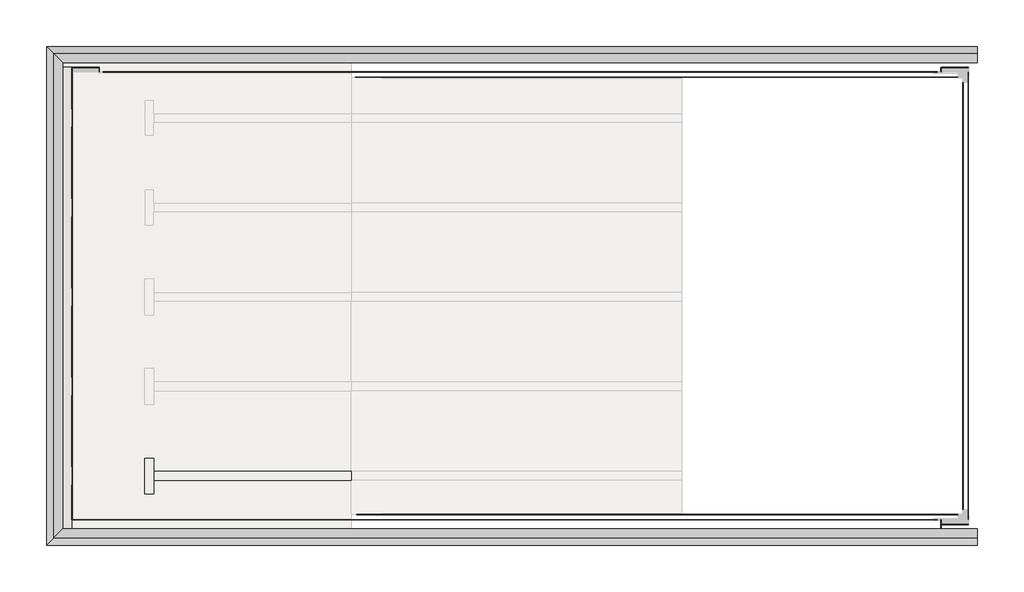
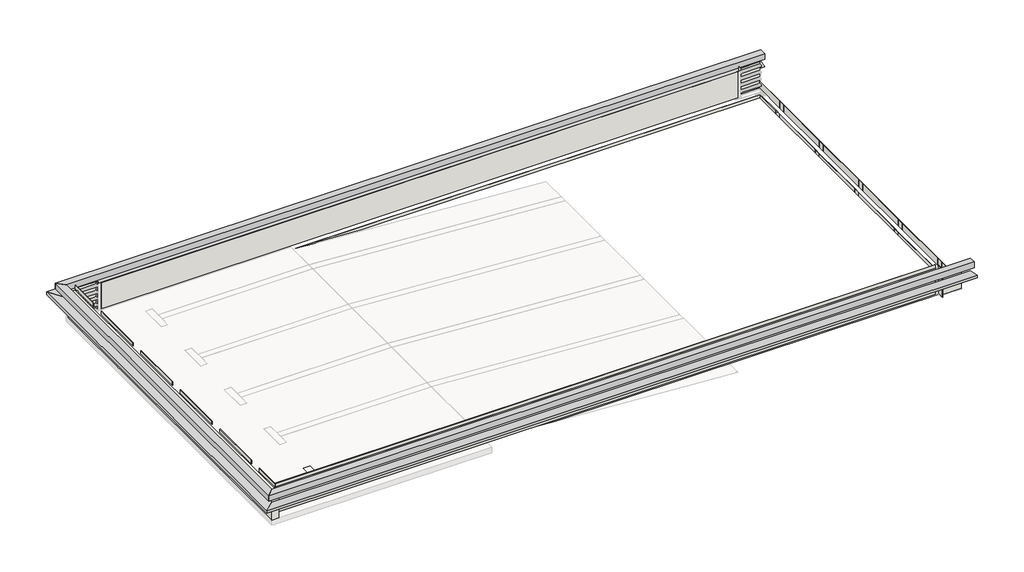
# One storey, part 1 of 2: 51 walls, 3 proxies, 2 slabs.
"""IFC4 building model written with IfcOpenShell, lengths in millimetres."""

from ifc_helpers import new_model, si_unit, frame, origin, place, context, project, spatial, polyline, outline, extrude, faceted_brep, element, save

model = new_model("IFC4")

# Units and contexts
model_context = context("Model", 3, world=origin())
ifc_project = project(units=[si_unit("LENGTHUNIT", "METRE", prefix="MILLI")], contexts=[model_context])

# Site, building, storey
site = spatial("IfcSite", under=ifc_project)
building = spatial("IfcBuilding", under=site)
storey = spatial("IfcBuildingStorey", under=building, Name="3_NFondo1 -1.2", Elevation=-1200.4)

# Proxies
placement = place(None, origin())
element("IfcBuildingElementProxy", 1, Name="Reveals", at=placement, inside=storey, context=model_context, shape_type="Brep", body=[
    faceted_brep([(6916.9610246, -25177.9286078, -15.4), (6916.9610246, -25177.9286078, -230.4), (7169.1610246, -25430.1286078, -230.4), (7169.1610246, -25430.1286078, -15.4), (32688.734436, -25177.9286078, -15.4), (32688.734436, -25430.1286078, -15.4), (32688.734436, -25430.1286078, -230.4), (32688.734436, -25177.9286078, -230.4)], [[[0, 1, 2, 3]], [[4, 5, 6, 7]], [[1, 0, 4, 7]], [[2, 1, 7, 6]], [[3, 2, 6, 5]], [[0, 3, 5, 4]]]),
    faceted_brep([(6714.1610246, -24975.1286078, -510.4), (7169.1610246, -25430.1286078, -510.4), (6714.1610246, -24975.1286078, -399.4243902), (32688.734436, -24975.1286078, -510.4), (32688.734436, -24975.1286078, -399.4243902), (32688.734436, -25430.1286078, -510.4)], [[[0, 1, 2]], [[3, 4, 5]], [[1, 0, 3, 5]], [[2, 1, 5, 4]], [[0, 2, 4, 3]]]),
])
element("IfcBuildingElementProxy", 2, Name="Reveals", at=placement, inside=storey, context=model_context, shape_type="Brep", body=[
    faceted_brep([(6916.9610246, -38700.9332692, -15.4), (7169.1610246, -38448.7332692, -15.4), (7169.1610246, -38448.7332692, -230.4), (6916.9610246, -38700.9332692, -230.4), (32688.734436, -38700.9332692, -15.4), (32688.734436, -38700.9332692, -230.4), (32688.734436, -38448.7332692, -230.4), (32688.734436, -38448.7332692, -15.4)], [[[0, 1, 2, 3]], [[4, 5, 6, 7]], [[0, 3, 5, 4]], [[3, 2, 6, 5]], [[2, 1, 7, 6]], [[1, 0, 4, 7]]]),
    faceted_brep([(6714.1610246, -38903.7332692, -510.4), (6714.1610246, -38903.7332692, -399.4243902), (7169.1610246, -38448.7332692, -510.4), (32688.734436, -38903.7332692, -510.4), (32688.734436, -38448.7332692, -510.4), (32688.734436, -38903.7332692, -399.4243902)], [[[0, 1, 2]], [[3, 4, 5]], [[0, 2, 4, 3]], [[2, 1, 5, 4]], [[1, 0, 3, 5]]]),
])
element("IfcBuildingElementProxy", 3, Name="Reveals", at=placement, inside=storey, context=model_context, shape_type="Brep", body=[
    faceted_brep([(6916.9610246, -25177.9286078, -15.4), (7169.1610246, -25430.1286078, -15.4), (7169.1610246, -25430.1286078, -230.4), (6916.9610246, -25177.9286078, -230.4), (6916.9610246, -38700.9332692, -15.4), (6916.9610246, -38700.9332692, -230.4), (7169.1610246, -38448.7332692, -230.4), (7169.1610246, -38448.7332692, -15.4)], [[[0, 1, 2, 3]], [[4, 5, 6, 7]], [[0, 3, 5, 4]], [[3, 2, 6, 5]], [[2, 1, 7, 6]], [[1, 0, 4, 7]]]),
    faceted_brep([(6714.1610246, -24975.1286078, -510.4), (6714.1610246, -24975.1286078, -399.4243902), (7169.1610246, -25430.1286078, -510.4), (6714.1610246, -38903.7332692, -510.4), (7169.1610246, -38448.7332692, -510.4), (6714.1610246, -38903.7332692, -399.4243902)], [[[0, 1, 2]], [[3, 4, 5]], [[0, 2, 4, 3]], [[2, 1, 5, 4]], [[1, 0, 3, 5]]]),
])

# Slabs
element("IfcSlab", 4, ObjectType="Pieza 122 G1_Patrón Recto_Aqua_Marino_Liso", at=placement, inside=storey, context=model_context, shape_type="SweptSolid", body=[
    extrude(outline(polyline([(9709.4610246, -36469.4598578), (9709.4610246, -37469.4598578), (9459.4610246, -37469.4598578), (9459.4610246, -36469.4598578), (9709.4610246, -36469.4598578)])), frame((0.0, 0.0, -1209.4), z_axis=(0.0, 0.0, 1.0), x_axis=(1.0, 0.0, 0.0)), (0.0, 0.0, 1.0), 9.0),
])
element("IfcSlab", 5, ObjectType="Pieza 122 G1_Patrón Recto_Aqua_Marino_Liso", at=placement, inside=storey, context=model_context, shape_type="SweptSolid", body=[
    extrude(outline(polyline([(15209.434436, -36844.4598578), (15209.434436, -37094.4598578), (9709.4610246, -37094.4598578), (9709.4610246, -36844.4598578), (15209.434436, -36844.4598578)])), frame((0.0, 0.0, -1209.4), z_axis=(0.0, 0.0, 1.0), x_axis=(1.0, 0.0, 0.0)), (0.0, 0.0, 1.0), 9.0),
])

# Walls
element("IfcWall", 6, ObjectType="Pieza 122 G1_Patrón Recto_Aqua_Azul_Liso", at=placement, inside=storey, context=model_context, shape_type="SweptSolid", body=[
    extrude(outline(polyline([(7420.434436, -26844.4598578), (7420.434436, -25560.5970423), (7429.434436, -25560.5970423), (7429.434436, -26844.4598578), (7420.434436, -26844.4598578)])), frame((0.0, 0.0, -1170.4), z_axis=(0.0, 0.0, 1.0), x_axis=(1.0, 0.0, 0.0)), (0.0, 0.0, 1.0), 258.0),
])
element("IfcWall", 7, ObjectType="Pieza 122 G1_Patrón Recto_Aqua_Azul_Liso", at=placement, inside=storey, context=model_context, shape_type="SweptSolid", body=[
    extrude(outline(polyline([(32438.434436, -37094.4598578), (32438.434436, -38318.2532396), (32429.434436, -38318.2532396), (32429.434436, -37094.4598578), (32438.434436, -37094.4598578)])), frame((0.0, 0.0, -1170.4), z_axis=(0.0, 0.0, 1.0), x_axis=(1.0, 0.0, 0.0)), (0.0, 0.0, 1.0), 258.0),
])
element("IfcWall", 8, ObjectType="Pieza 122 G1_Patrón Recto_Aqua_Marino_Liso", at=placement, inside=storey, context=model_context, shape_type="SweptSolid", body=[
    extrude(outline(polyline([(7429.434436, -38189.4332692), (31561.2174523, -38189.4332692), (31561.2174523, -38198.4332692), (7429.434436, -38198.4332692), (7429.434436, -38189.4332692)])), frame((0.0, 0.0, -162.4), z_axis=(0.0, 0.0, 1.0), x_axis=(1.0, 0.0, 0.0)), (0.0, 0.0, 1.0), 125.0),
])
element("IfcWall", 9, ObjectType="Pieza 122 G1_Patrón Recto_Aqua_Azul_Liso", at=placement, inside=storey, context=model_context, shape_type="SweptSolid", body=[
    extrude(outline(polyline([(-1335.4, 32281.3107645), (-1210.4, 32281.3107645), (-1210.4, 15333.6011027), (-1256.7196749, 16047.6960914), (-1226.7616611, 16049.6393139), (-1335.4, 17724.4803716), (-1335.4, 32281.3107645)])), frame((0.0, -25837.5814211, 0.0), z_axis=(0.0, 1.0, 0.0), x_axis=(0.0, 0.0, 1.0)), (0.0, 0.0, 1.0), 9.0),
])
element("IfcWall", 10, ObjectType="Pieza 122 G1_Patrón Recto_Aqua_Azul_Liso", at=placement, inside=storey, context=model_context, shape_type="SweptSolid", body=[
    extrude(outline(polyline([(32281.3107645, -26844.4598578), (32281.3107645, -25837.5814211), (32290.3107645, -25837.5814211), (32290.3107645, -26844.4598578), (32281.3107645, -26844.4598578)])), frame((0.0, 0.0, -1335.4), z_axis=(0.0, 0.0, 1.0), x_axis=(1.0, 0.0, 0.0)), (0.0, 0.0, 1.0), 125.0099814),
])
element("IfcWall", 11, ObjectType="Pieza 122 G1_Patrón Recto_Aqua_Azul_Liso", at=placement, inside=storey, context=model_context, shape_type="SweptSolid", body=[
    extrude(outline(polyline([(-1335.4, 32281.3107645), (-1210.4, 32281.3107645), (-1210.4, 15363.284436), (-1254.8718123, 16047.4832686), (-1224.9787856, 16049.4285849), (-1335.4, 17746.2345794), (-1335.4, 32281.3107645)])), frame((0.0, -38050.2851174, 0.0), z_axis=(0.0, 1.0, 0.0), x_axis=(0.0, 0.0, 1.0)), (0.0, 0.0, 1.0), 9.0),
])
element("IfcWall", 12, ObjectType="Pieza 122 G1_Patrón Recto_Aqua_Azul_Liso", at=placement, inside=storey, context=model_context, shape_type="SweptSolid", body=[
    extrude(outline(polyline([(31561.2174523, -25689.4332692), (8297.6514198, -25689.4332692), (8297.6514198, -25680.4332692), (31561.2174523, -25680.4332692), (31561.2174523, -25689.4332692)])), frame((0.0, 0.0, -1170.4), z_axis=(0.0, 0.0, 1.0), x_axis=(1.0, 0.0, 0.0)), (0.0, 0.0, 1.0), 1008.0),
])
element("IfcWall", 13, ObjectType="Pieza 122 G1_Patrón Recto_Aqua_Azul_Liso", at=placement, inside=storey, context=model_context, shape_type="SweptSolid", body=[
    extrude(outline(polyline([(31561.2174523, -38198.4332692), (7429.434436, -38198.4332692), (7429.434436, -38189.4332692), (31561.2174523, -38189.4332692), (31561.2174523, -38198.4332692)])), frame((0.0, 0.0, -1170.4), z_axis=(0.0, 0.0, 1.0), x_axis=(1.0, 0.0, 0.0)), (0.0, 0.0, 1.0), 1008.0),
])
element("IfcWall", 14, ObjectType="Pieza 122 G1_Patrón Recto_Aqua_Azul_Liso", at=placement, inside=storey, context=model_context, shape_type="SweptSolid", body=[
    extrude(outline(polyline([(-25560.5970423, -1170.4), (-25681.4332692, -1170.4), (-25681.4332692, -90.4), (-25560.5970423, -158.4669769), (-25560.5970423, -1170.4)])), frame((8179.434436, 0.0, 0.0), z_axis=(1.0, 0.0, 0.0), x_axis=(0.0, 1.0, 0.0)), (0.0, 0.0, 1.0), 9.0),
])
element("IfcWall", 15, ObjectType="Pieza 122 G1_Patrón Recto_Aqua_Azul_Liso", at=placement, inside=storey, context=model_context, shape_type="SweptSolid", body=[
    extrude(outline(polyline([(8179.434436, -25560.5970423), (7429.434436, -25560.5970423), (7429.434436, -25551.5970423), (8179.434436, -25551.5970423), (8179.434436, -25560.5970423)])), frame((0.0, 0.0, -1170.4), z_axis=(0.0, 0.0, 1.0), x_axis=(1.0, 0.0, 0.0)), (0.0, 0.0, 1.0), 1010.0),
])
element("IfcWall", 16, ObjectType="Pieza 122 G1_Patrón Recto_Aqua_Azul_Liso", at=placement, inside=storey, context=model_context, shape_type="SweptSolid", body=[
    extrude(outline(polyline([(31679.434436, -25560.5970423), (31679.434436, -25681.4332692), (31670.434436, -25681.4332692), (31670.434436, -25560.5970423), (31679.434436, -25560.5970423)])), frame((0.0, 0.0, -1170.4), z_axis=(0.0, 0.0, 1.0), x_axis=(1.0, 0.0, 0.0)), (0.0, 0.0, 1.0), 1080.0),
])
element("IfcWall", 17, ObjectType="Pieza 122 G1_Patrón Recto_Aqua_Azul_Liso", at=placement, inside=storey, context=model_context, shape_type="SweptSolid", body=[
    extrude(outline(polyline([(32429.434436, -25560.5970423), (31679.434436, -25560.5970423), (31679.434436, -25551.5970423), (32429.434436, -25551.5970423), (32429.434436, -25560.5970423)])), frame((0.0, 0.0, -1170.4), z_axis=(0.0, 0.0, 1.0), x_axis=(1.0, 0.0, 0.0)), (0.0, 0.0, 1.0), 1010.0),
])
element("IfcWall", 18, ObjectType="Pieza 122 G1_Patrón Recto_Aqua_Azul_Liso", at=placement, inside=storey, context=model_context, shape_type="Brep", body=[
    faceted_brep([(31670.434436, -38197.4332692, -1170.4), (31670.434436, -38198.4332692, -1170.4), (31670.434436, -38448.7851174, -1170.4), (31670.434436, -38448.7851174, -229.4), (31670.434436, -38448.7851174, -90.4), (31670.434436, -38197.4332692, -90.4), (31679.434436, -38197.4332692, -1170.4), (31679.434436, -38197.4332692, -90.4), (31679.434436, -38448.7851174, -90.4), (31679.434436, -38448.7851174, -227.6460892), (31679.434436, -38448.7851174, -1170.4), (31679.434436, -38328.7851174, -1170.4), (31674.934436, -38448.7851174, -1170.4)], [[[0, 1, 2, 3, 4, 5]], [[6, 7, 8, 9, 10, 11]], [[2, 1, 0, 6, 11, 10, 12]], [[5, 4, 8, 7]], [[0, 5, 7, 6]], [[2, 12, 10, 9, 8, 4, 3]]]),
])
element("IfcWall", 19, ObjectType="Pieza 122 G1_Patrón Recto_Aqua_Azul_Liso", at=placement, inside=storey, context=model_context, shape_type="SweptSolid", body=[
    extrude(outline(polyline([(32429.434436, -38327.2694962), (31679.434436, -38327.2694962), (31679.434436, -38318.2694962), (32429.434436, -38318.2694962), (32429.434436, -38327.2694962)])), frame((0.0, 0.0, -1170.4), z_axis=(0.0, 0.0, 1.0), x_axis=(1.0, 0.0, 0.0)), (0.0, 0.0, 1.0), 1010.0),
])
element("IfcWall", 20, ObjectType="Pieza 122 G1_Patrón Recto_Aqua_Marino_Anti-Slip", at=placement, inside=storey, context=model_context, shape_type="SweptSolid", body=[
    extrude(outline(polyline([(7429.434436, -37219.4598578), (7429.434436, -38189.4332692), (7420.434436, -38189.4332692), (7420.434436, -37219.4598578), (7429.434436, -37219.4598578)])), frame((0.0, 0.0, -162.4), z_axis=(0.0, 0.0, 1.0), x_axis=(1.0, 0.0, 0.0)), (0.0, 0.0, 1.0), 125.0),
])
element("IfcWall", 21, ObjectType="Pieza 122 G1_Patrón Recto_Aqua_Azul_Liso", at=placement, inside=storey, context=model_context, shape_type="SweptSolid", body=[
    extrude(outline(polyline([(7420.434436, -38189.4332692), (7420.434436, -37094.4598578), (7429.434436, -37094.4598578), (7429.434436, -38189.4332692), (7420.434436, -38189.4332692)])), frame((0.0, 0.0, -1170.4), z_axis=(0.0, 0.0, 1.0), x_axis=(1.0, 0.0, 0.0)), (0.0, 0.0, 1.0), 258.0),
])
element("IfcWall", 22, ObjectType="Pieza 122 G1_Patrón Recto_Aqua_Marino_Liso", at=placement, inside=storey, context=model_context, shape_type="SweptSolid", body=[
    extrude(outline(polyline([(7420.434436, -37094.4598578), (7420.434436, -36844.4598578), (7429.434436, -36844.4598578), (7429.434436, -37094.4598578), (7420.434436, -37094.4598578)])), frame((0.0, 0.0, -1170.4), z_axis=(0.0, 0.0, 1.0), x_axis=(1.0, 0.0, 0.0)), (0.0, 0.0, 1.0), 258.0),
])
element("IfcWall", 23, ObjectType="Pieza 122 G1_Patrón Recto_Aqua_Azul_Liso", at=placement, inside=storey, context=model_context, shape_type="SweptSolid", body=[
    extrude(outline(polyline([(7420.434436, -36844.4598578), (7420.434436, -34594.4598578), (7429.434436, -34594.4598578), (7429.434436, -36844.4598578), (7420.434436, -36844.4598578)])), frame((0.0, 0.0, -1170.4), z_axis=(0.0, 0.0, 1.0), x_axis=(1.0, 0.0, 0.0)), (0.0, 0.0, 1.0), 258.0),
])
element("IfcWall", 24, ObjectType="Pieza 122 G1_Patrón Recto_Aqua_Marino_Liso", at=placement, inside=storey, context=model_context, shape_type="SweptSolid", body=[
    extrude(outline(polyline([(7420.434436, -34594.4598578), (7420.434436, -34344.4598578), (7429.434436, -34344.4598578), (7429.434436, -34594.4598578), (7420.434436, -34594.4598578)])), frame((0.0, 0.0, -1170.4), z_axis=(0.0, 0.0, 1.0), x_axis=(1.0, 0.0, 0.0)), (0.0, 0.0, 1.0), 258.0),
])
element("IfcWall", 25, ObjectType="Pieza 122 G1_Patrón Recto_Aqua_Azul_Liso", at=placement, inside=storey, context=model_context, shape_type="SweptSolid", body=[
    extrude(outline(polyline([(7420.434436, -34344.4598578), (7420.434436, -32094.4598578), (7429.434436, -32094.4598578), (7429.434436, -34344.4598578), (7420.434436, -34344.4598578)])), frame((0.0, 0.0, -1170.4), z_axis=(0.0, 0.0, 1.0), x_axis=(1.0, 0.0, 0.0)), (0.0, 0.0, 1.0), 258.0),
])
element("IfcWall", 26, ObjectType="Pieza 122 G1_Patrón Recto_Aqua_Marino_Liso", at=placement, inside=storey, context=model_context, shape_type="SweptSolid", body=[
    extrude(outline(polyline([(7420.434436, -32094.4598578), (7420.434436, -31844.4598578), (7429.434436, -31844.4598578), (7429.434436, -32094.4598578), (7420.434436, -32094.4598578)])), frame((0.0, 0.0, -1170.4), z_axis=(0.0, 0.0, 1.0), x_axis=(1.0, 0.0, 0.0)), (0.0, 0.0, 1.0), 258.0),
])
element("IfcWall", 27, ObjectType="Pieza 122 G1_Patrón Recto_Aqua_Azul_Liso", at=placement, inside=storey, context=model_context, shape_type="SweptSolid", body=[
    extrude(outline(polyline([(7420.434436, -31844.4598578), (7420.434436, -29594.4598578), (7429.434436, -29594.4598578), (7429.434436, -31844.4598578), (7420.434436, -31844.4598578)])), frame((0.0, 0.0, -1170.4), z_axis=(0.0, 0.0, 1.0), x_axis=(1.0, 0.0, 0.0)), (0.0, 0.0, 1.0), 258.0),
])
element("IfcWall", 28, ObjectType="Pieza 122 G1_Patrón Recto_Aqua_Marino_Liso", at=placement, inside=storey, context=model_context, shape_type="SweptSolid", body=[
    extrude(outline(polyline([(7420.434436, -29594.4598578), (7420.434436, -29344.4598578), (7429.434436, -29344.4598578), (7429.434436, -29594.4598578), (7420.434436, -29594.4598578)])), frame((0.0, 0.0, -1170.4), z_axis=(0.0, 0.0, 1.0), x_axis=(1.0, 0.0, 0.0)), (0.0, 0.0, 1.0), 258.0),
])
element("IfcWall", 29, ObjectType="Pieza 122 G1_Patrón Recto_Aqua_Azul_Liso", at=placement, inside=storey, context=model_context, shape_type="SweptSolid", body=[
    extrude(outline(polyline([(7420.434436, -29344.4598578), (7420.434436, -27094.4598578), (7429.434436, -27094.4598578), (7429.434436, -29344.4598578), (7420.434436, -29344.4598578)])), frame((0.0, 0.0, -1170.4), z_axis=(0.0, 0.0, 1.0), x_axis=(1.0, 0.0, 0.0)), (0.0, 0.0, 1.0), 258.0),
])
element("IfcWall", 30, ObjectType="Pieza 122 G1_Patrón Recto_Aqua_Marino_Liso", at=placement, inside=storey, context=model_context, shape_type="SweptSolid", body=[
    extrude(outline(polyline([(7420.434436, -27094.4598578), (7420.434436, -26844.4598578), (7429.434436, -26844.4598578), (7429.434436, -27094.4598578), (7420.434436, -27094.4598578)])), frame((0.0, 0.0, -1170.4), z_axis=(0.0, 0.0, 1.0), x_axis=(1.0, 0.0, 0.0)), (0.0, 0.0, 1.0), 258.0),
])
element("IfcWall", 31, ObjectType="Pieza 122 G1_Patrón Recto_Aqua_Marino_Anti-Slip", at=placement, inside=storey, context=model_context, shape_type="SweptSolid", body=[
    extrude(outline(polyline([(7429.434436, -34719.4598578), (7429.434436, -36719.4598578), (7420.434436, -36719.4598578), (7420.434436, -34719.4598578), (7429.434436, -34719.4598578)])), frame((0.0, 0.0, -162.4), z_axis=(0.0, 0.0, 1.0), x_axis=(1.0, 0.0, 0.0)), (0.0, 0.0, 1.0), 125.0),
])
element("IfcWall", 32, ObjectType="Pieza 122 G1_Patrón Recto_Aqua_Marino_Anti-Slip", at=placement, inside=storey, context=model_context, shape_type="SweptSolid", body=[
    extrude(outline(polyline([(7429.434436, -32219.4598578), (7429.434436, -34219.4598578), (7420.434436, -34219.4598578), (7420.434436, -32219.4598578), (7429.434436, -32219.4598578)])), frame((0.0, 0.0, -162.4), z_axis=(0.0, 0.0, 1.0), x_axis=(1.0, 0.0, 0.0)), (0.0, 0.0, 1.0), 125.0),
])
element("IfcWall", 33, ObjectType="Pieza 122 G1_Patrón Recto_Aqua_Marino_Anti-Slip", at=placement, inside=storey, context=model_context, shape_type="SweptSolid", body=[
    extrude(outline(polyline([(7429.434436, -29719.4598578), (7429.434436, -31719.4598578), (7420.434436, -31719.4598578), (7420.434436, -29719.4598578), (7429.434436, -29719.4598578)])), frame((0.0, 0.0, -162.4), z_axis=(0.0, 0.0, 1.0), x_axis=(1.0, 0.0, 0.0)), (0.0, 0.0, 1.0), 125.0),
])
element("IfcWall", 34, ObjectType="Pieza 122 G1_Patrón Recto_Aqua_Marino_Anti-Slip", at=placement, inside=storey, context=model_context, shape_type="SweptSolid", body=[
    extrude(outline(polyline([(7429.434436, -27219.4598578), (7429.434436, -29219.4598578), (7420.434436, -29219.4598578), (7420.434436, -27219.4598578), (7429.434436, -27219.4598578)])), frame((0.0, 0.0, -162.4), z_axis=(0.0, 0.0, 1.0), x_axis=(1.0, 0.0, 0.0)), (0.0, 0.0, 1.0), 125.0),
])
element("IfcWall", 35, ObjectType="Pieza 122 G1_Patrón Recto_Aqua_Marino_Anti-Slip", at=placement, inside=storey, context=model_context, shape_type="SweptSolid", body=[
    extrude(outline(polyline([(7429.434436, -25569.4332692), (7429.434436, -26719.4598578), (7420.434436, -26719.4598578), (7420.434436, -25569.4332692), (7429.434436, -25569.4332692)])), frame((0.0, 0.0, -162.4), z_axis=(0.0, 0.0, 1.0), x_axis=(1.0, 0.0, 0.0)), (0.0, 0.0, 1.0), 125.0),
])
element("IfcWall", 36, ObjectType="Pieza 122 G1_Patrón Recto_Aqua_Azul_Liso", at=placement, inside=storey, context=model_context, shape_type="SweptSolid", body=[
    extrude(outline(polyline([(32281.3107645, -38041.2851174), (32281.3107645, -37094.4598578), (32290.3107645, -37094.4598578), (32290.3107645, -38041.2851174), (32281.3107645, -38041.2851174)])), frame((0.0, 0.0, -1335.4), z_axis=(0.0, 0.0, 1.0), x_axis=(1.0, 0.0, 0.0)), (0.0, 0.0, 1.0), 125.0099814),
])
element("IfcWall", 37, ObjectType="Pieza 122 G1_Patrón Recto_Aqua_Marino_Liso", at=placement, inside=storey, context=model_context, shape_type="SweptSolid", body=[
    extrude(outline(polyline([(32281.3107645, -37094.4598578), (32281.3107645, -36844.4598578), (32290.3107645, -36844.4598578), (32290.3107645, -37094.4598578), (32281.3107645, -37094.4598578)])), frame((0.0, 0.0, -1335.4), z_axis=(0.0, 0.0, 1.0), x_axis=(1.0, 0.0, 0.0)), (0.0, 0.0, 1.0), 125.0099814),
])
element("IfcWall", 38, ObjectType="Pieza 122 G1_Patrón Recto_Aqua_Azul_Liso", at=placement, inside=storey, context=model_context, shape_type="SweptSolid", body=[
    extrude(outline(polyline([(32281.3107645, -36844.4598578), (32281.3107645, -34594.4598578), (32290.3107645, -34594.4598578), (32290.3107645, -36844.4598578), (32281.3107645, -36844.4598578)])), frame((0.0, 0.0, -1335.4), z_axis=(0.0, 0.0, 1.0), x_axis=(1.0, 0.0, 0.0)), (0.0, 0.0, 1.0), 125.0099814),
])
element("IfcWall", 39, ObjectType="Pieza 122 G1_Patrón Recto_Aqua_Marino_Liso", at=placement, inside=storey, context=model_context, shape_type="SweptSolid", body=[
    extrude(outline(polyline([(32281.3107645, -34594.4598578), (32281.3107645, -34344.4598578), (32290.3107645, -34344.4598578), (32290.3107645, -34594.4598578), (32281.3107645, -34594.4598578)])), frame((0.0, 0.0, -1335.4), z_axis=(0.0, 0.0, 1.0), x_axis=(1.0, 0.0, 0.0)), (0.0, 0.0, 1.0), 125.0099814),
])
element("IfcWall", 40, ObjectType="Pieza 122 G1_Patrón Recto_Aqua_Marino_Liso", at=placement, inside=storey, context=model_context, shape_type="SweptSolid", body=[
    extrude(outline(polyline([(32281.3107645, -32094.4598578), (32281.3107645, -31844.4598578), (32290.3107645, -31844.4598578), (32290.3107645, -32094.4598578), (32281.3107645, -32094.4598578)])), frame((0.0, 0.0, -1335.4), z_axis=(0.0, 0.0, 1.0), x_axis=(1.0, 0.0, 0.0)), (0.0, 0.0, 1.0), 125.0099814),
])
element("IfcWall", 41, ObjectType="Pieza 122 G1_Patrón Recto_Aqua_Azul_Liso", at=placement, inside=storey, context=model_context, shape_type="SweptSolid", body=[
    extrude(outline(polyline([(32281.3107645, -34344.4598578), (32281.3107645, -32094.4598578), (32290.3107645, -32094.4598578), (32290.3107645, -34344.4598578), (32281.3107645, -34344.4598578)])), frame((0.0, 0.0, -1335.4), z_axis=(0.0, 0.0, 1.0), x_axis=(1.0, 0.0, 0.0)), (0.0, 0.0, 1.0), 125.0099814),
])
element("IfcWall", 42, ObjectType="Pieza 122 G1_Patrón Recto_Aqua_Azul_Liso", at=placement, inside=storey, context=model_context, shape_type="SweptSolid", body=[
    extrude(outline(polyline([(32281.3107645, -31844.4598578), (32281.3107645, -29594.4598578), (32290.3107645, -29594.4598578), (32290.3107645, -31844.4598578), (32281.3107645, -31844.4598578)])), frame((0.0, 0.0, -1335.4), z_axis=(0.0, 0.0, 1.0), x_axis=(1.0, 0.0, 0.0)), (0.0, 0.0, 1.0), 125.0099814),
])
element("IfcWall", 43, ObjectType="Pieza 122 G1_Patrón Recto_Aqua_Marino_Liso", at=placement, inside=storey, context=model_context, shape_type="SweptSolid", body=[
    extrude(outline(polyline([(32281.3107645, -29594.4598578), (32281.3107645, -29344.4598578), (32290.3107645, -29344.4598578), (32290.3107645, -29594.4598578), (32281.3107645, -29594.4598578)])), frame((0.0, 0.0, -1335.4), z_axis=(0.0, 0.0, 1.0), x_axis=(1.0, 0.0, 0.0)), (0.0, 0.0, 1.0), 125.0099814),
])
element("IfcWall", 44, ObjectType="Pieza 122 G1_Patrón Recto_Aqua_Azul_Liso", at=placement, inside=storey, context=model_context, shape_type="SweptSolid", body=[
    extrude(outline(polyline([(32281.3107645, -29344.4598578), (32281.3107645, -27094.4598578), (32290.3107645, -27094.4598578), (32290.3107645, -29344.4598578), (32281.3107645, -29344.4598578)])), frame((0.0, 0.0, -1335.4), z_axis=(0.0, 0.0, 1.0), x_axis=(1.0, 0.0, 0.0)), (0.0, 0.0, 1.0), 125.0099814),
])
element("IfcWall", 45, ObjectType="Pieza 122 G1_Patrón Recto_Aqua_Marino_Liso", at=placement, inside=storey, context=model_context, shape_type="SweptSolid", body=[
    extrude(outline(polyline([(32281.3107645, -27094.4598578), (32281.3107645, -26844.4598578), (32290.3107645, -26844.4598578), (32290.3107645, -27094.4598578), (32281.3107645, -27094.4598578)])), frame((0.0, 0.0, -1335.4), z_axis=(0.0, 0.0, 1.0), x_axis=(1.0, 0.0, 0.0)), (0.0, 0.0, 1.0), 125.0099814),
])
element("IfcWall", 46, ObjectType="Pieza 122 G1_Patrón Recto_Aqua_Marino_Liso", at=placement, inside=storey, context=model_context, shape_type="SweptSolid", body=[
    extrude(outline(polyline([(32438.434436, -36844.4598578), (32438.434436, -37094.4598578), (32429.434436, -37094.4598578), (32429.434436, -36844.4598578), (32438.434436, -36844.4598578)])), frame((0.0, 0.0, -1170.4), z_axis=(0.0, 0.0, 1.0), x_axis=(1.0, 0.0, 0.0)), (0.0, 0.0, 1.0), 258.0),
])
element("IfcWall", 47, ObjectType="Pieza 122 G1_Patrón Recto_Aqua_Azul_Liso", at=placement, inside=storey, context=model_context, shape_type="SweptSolid", body=[
    extrude(outline(polyline([(32438.434436, -34594.4598578), (32438.434436, -36844.4598578), (32429.434436, -36844.4598578), (32429.434436, -34594.4598578), (32438.434436, -34594.4598578)])), frame((0.0, 0.0, -1170.4), z_axis=(0.0, 0.0, 1.0), x_axis=(1.0, 0.0, 0.0)), (0.0, 0.0, 1.0), 258.0),
])
element("IfcWall", 48, ObjectType="Pieza 122 G1_Patrón Recto_Aqua_Marino_Liso", at=placement, inside=storey, context=model_context, shape_type="SweptSolid", body=[
    extrude(outline(polyline([(32438.434436, -34344.4598578), (32438.434436, -34594.4598578), (32429.434436, -34594.4598578), (32429.434436, -34344.4598578), (32438.434436, -34344.4598578)])), frame((0.0, 0.0, -1170.4), z_axis=(0.0, 0.0, 1.0), x_axis=(1.0, 0.0, 0.0)), (0.0, 0.0, 1.0), 258.0),
])
element("IfcWall", 49, ObjectType="Pieza 122 G1_Patrón Recto_Aqua_Azul_Liso", at=placement, inside=storey, context=model_context, shape_type="SweptSolid", body=[
    extrude(outline(polyline([(32438.434436, -32094.4598578), (32438.434436, -34344.4598578), (32429.434436, -34344.4598578), (32429.434436, -32094.4598578), (32438.434436, -32094.4598578)])), frame((0.0, 0.0, -1170.4), z_axis=(0.0, 0.0, 1.0), x_axis=(1.0, 0.0, 0.0)), (0.0, 0.0, 1.0), 258.0),
])
element("IfcWall", 50, ObjectType="Pieza 122 G1_Patrón Recto_Aqua_Marino_Liso", at=placement, inside=storey, context=model_context, shape_type="SweptSolid", body=[
    extrude(outline(polyline([(32438.434436, -31844.4598578), (32438.434436, -32094.4598578), (32429.434436, -32094.4598578), (32429.434436, -31844.4598578), (32438.434436, -31844.4598578)])), frame((0.0, 0.0, -1170.4), z_axis=(0.0, 0.0, 1.0), x_axis=(1.0, 0.0, 0.0)), (0.0, 0.0, 1.0), 258.0),
])
element("IfcWall", 51, ObjectType="Pieza 122 G1_Patrón Recto_Aqua_Azul_Liso", at=placement, inside=storey, context=model_context, shape_type="SweptSolid", body=[
    extrude(outline(polyline([(32438.434436, -29594.4598578), (32438.434436, -31844.4598578), (32429.434436, -31844.4598578), (32429.434436, -29594.4598578), (32438.434436, -29594.4598578)])), frame((0.0, 0.0, -1170.4), z_axis=(0.0, 0.0, 1.0), x_axis=(1.0, 0.0, 0.0)), (0.0, 0.0, 1.0), 258.0),
])
element("IfcWall", 52, ObjectType="Pieza 122 G1_Patrón Recto_Aqua_Marino_Liso", at=placement, inside=storey, context=model_context, shape_type="SweptSolid", body=[
    extrude(outline(polyline([(32438.434436, -29344.4598578), (32438.434436, -29594.4598578), (32429.434436, -29594.4598578), (32429.434436, -29344.4598578), (32438.434436, -29344.4598578)])), frame((0.0, 0.0, -1170.4), z_axis=(0.0, 0.0, 1.0), x_axis=(1.0, 0.0, 0.0)), (0.0, 0.0, 1.0), 258.0),
])
element("IfcWall", 53, ObjectType="Pieza 122 G1_Patrón Recto_Aqua_Azul_Liso", at=placement, inside=storey, context=model_context, shape_type="SweptSolid", body=[
    extrude(outline(polyline([(32438.434436, -27094.4598578), (32438.434436, -29344.4598578), (32429.434436, -29344.4598578), (32429.434436, -27094.4598578), (32438.434436, -27094.4598578)])), frame((0.0, 0.0, -1170.4), z_axis=(0.0, 0.0, 1.0), x_axis=(1.0, 0.0, 0.0)), (0.0, 0.0, 1.0), 258.0),
])
element("IfcWall", 54, ObjectType="Pieza 122 G1_Patrón Recto_Aqua_Marino_Liso", at=placement, inside=storey, context=model_context, shape_type="SweptSolid", body=[
    extrude(outline(polyline([(32438.434436, -26844.4598578), (32438.434436, -27094.4598578), (32429.434436, -27094.4598578), (32429.434436, -26844.4598578), (32438.434436, -26844.4598578)])), frame((0.0, 0.0, -1170.4), z_axis=(0.0, 0.0, 1.0), x_axis=(1.0, 0.0, 0.0)), (0.0, 0.0, 1.0), 258.0),
])
element("IfcWall", 55, ObjectType="Pieza 122 G1_Patrón Recto_Aqua_Azul_Liso", at=placement, inside=storey, context=model_context, shape_type="SweptSolid", body=[
    extrude(outline(polyline([(32438.434436, -25560.5970423), (32438.434436, -26844.4598578), (32429.434436, -26844.4598578), (32429.434436, -25560.5970423), (32438.434436, -25560.5970423)])), frame((0.0, 0.0, -1170.4), z_axis=(0.0, 0.0, 1.0), x_axis=(1.0, 0.0, 0.0)), (0.0, 0.0, 1.0), 258.0),
])
element("IfcWall", 56, ObjectType="GENÉRICO_MURO CONTENCIÓN PISCINA_Estructura_25cm", at=placement, inside=storey, context=model_context, shape_type="Brep", body=[
    faceted_brep([(7169.1610246, -25550.1286078, -1210.4), (7169.1610246, -38448.7332692, -1210.4), (7169.1610246, -38448.7332692, -229.4), (7169.1610246, -25550.1286078, -229.4), (7419.4610246, -25550.1286078, -1210.4), (7419.4610246, -25550.1286078, -229.4), (7419.4610246, -38198.4332692, -229.4), (7419.4610246, -38448.7332692, -229.4), (7419.4610246, -38448.7332692, -1210.4), (7419.4610246, -38198.4332692, -1210.4)], [[[0, 1, 2, 3]], [[4, 5, 6, 7, 8, 9]], [[1, 0, 4, 9, 8]], [[3, 2, 7, 6, 5]], [[0, 3, 5, 4]], [[2, 1, 8, 7]]]),
])

save(model, "model.ifc")
